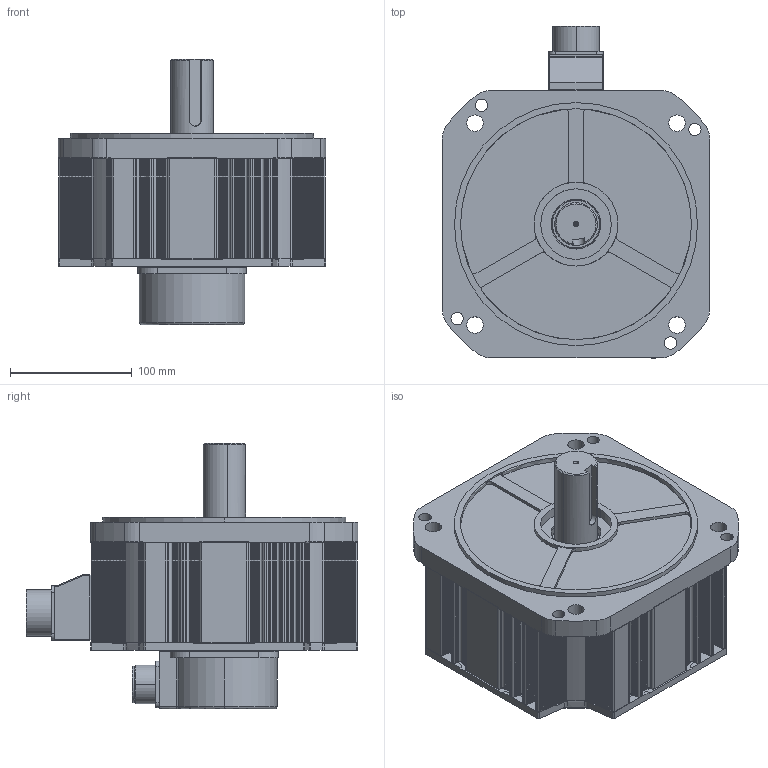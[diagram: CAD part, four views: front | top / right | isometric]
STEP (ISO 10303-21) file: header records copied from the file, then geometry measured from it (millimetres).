
FILE_DESCRIPTION (( 'STEP AP203' ), '1' );
FILE_NAME ('KANF-40G¡à9N2.STEP', '2026-09-12T00:53:05', ( '' ), ( '' ), 'SwSTEP 2.0', 'SolidWorks 2023', '' );
FILE_SCHEMA (( 'CONFIG_CONTROL_DESIGN' ));
Length unit declared in the file: millimetre
Products named in the file (11): MS3102A 24-11P_표준; MS3102A 20-29P; □220 BRACKET_BR; Ø35-KEY10X50; 10050907 RUBBER SEAL_MS22 or MS24; 1005053102 ENCODER COVER; □220-85.0mm(4.0kW,NB); 10050908 CONNECTOR BOX_MS22 or MS24; KANF-40G□9N2; 10050532 GASKET_미돌출형; □220 FLANGE
Assembly tree (10 placements, depth 2):
  KANF-40G□9N2
    □220 FLANGE
    □220 BRACKET_BR
    10050532 GASKET_미돌출형
    1005053102 ENCODER COVER
    MS3102A 20-29P
    10050907 RUBBER SEAL_MS22 or MS24
    10050908 CONNECTOR BOX_MS22 or MS24
    MS3102A 24-11P_표준
    Ø35-KEY10X50
    □220-85.0mm(4.0kW,NB)
Bounding box: 220 x 273.12 x 218.5 mm (x, y, z)
Volume: 1536309.9 mm3; surface area: 519675.4 mm2
Topology: 10 solids, 10 shells, 2020 faces, 5772 edges, 3812 vertices
Faces by surface type: plane 1184, cylinder 732, cone 54, bspline 35, torus 13, sphere 2
Entity records: 68895 total; most frequent: CARTESIAN_POINT 13760, ORIENTED_EDGE 11492, DIRECTION 11204, EDGE_CURVE 5746, LINE 3982, VECTOR 3982, VERTEX_POINT 3812, AXIS2_PLACEMENT_3D 3611
